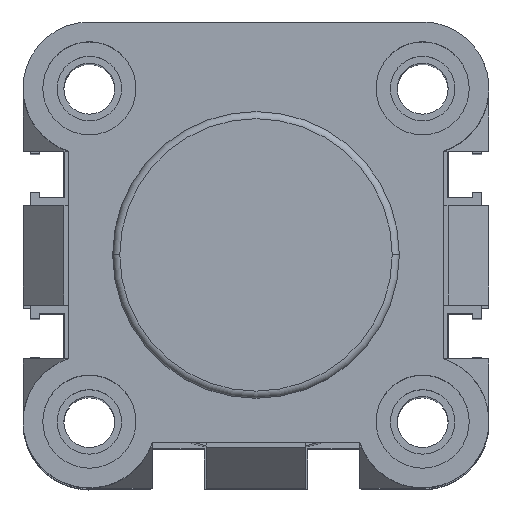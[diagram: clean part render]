
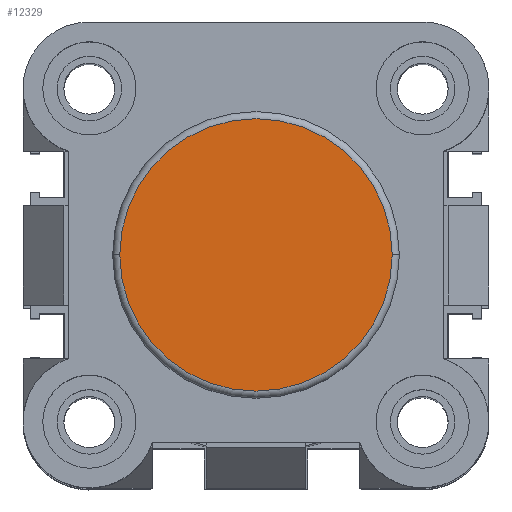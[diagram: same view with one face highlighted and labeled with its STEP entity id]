
A CAD part, top view. The second image highlights one B-rep face of the part: STEP entity #12329.
In plain terms, the highlighted planar face has unit normal (0, 0, 1).
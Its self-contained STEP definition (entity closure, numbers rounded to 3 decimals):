
#382 = DIRECTION ( 'NONE',  ( 0., 0., 1. ) ) ;
#431 = CIRCLE ( 'NONE', #3643, 19. ) ;
#621 = EDGE_CURVE ( 'NONE', #16691, #7317, #431, .T. ) ;
#1296 = DIRECTION ( 'NONE',  ( 0., 0., 1. ) ) ;
#1938 = EDGE_CURVE ( 'NONE', #7317, #16691, #5444, .T. ) ;
#2319 = ORIENTED_EDGE ( 'NONE', *, *, #621, .T. ) ;
#3643 = AXIS2_PLACEMENT_3D ( 'NONE', #12511, #1296, #23995 ) ;
#3946 = PLANE ( 'NONE',  #20148 ) ;
#5444 = CIRCLE ( 'NONE', #19586, 19. ) ;
#5539 = ORIENTED_EDGE ( 'NONE', *, *, #1938, .T. ) ;
#5625 = CARTESIAN_POINT ( 'NONE',  ( 13.5, 32.5, 34. ) ) ;
#7317 = VERTEX_POINT ( 'NONE', #24533 ) ;
#8037 = EDGE_LOOP ( 'NONE', ( #5539, #2319 ) ) ;
#9871 = CARTESIAN_POINT ( 'NONE',  ( 32.5, 32.5, 34. ) ) ;
#11280 = CARTESIAN_POINT ( 'NONE',  ( 32.5, 32.5, 34. ) ) ;
#12329 = ADVANCED_FACE ( 'NONE', ( #14322 ), #3946, .T. ) ;
#12511 = CARTESIAN_POINT ( 'NONE',  ( 32.5, 32.5, 34. ) ) ;
#14322 = FACE_OUTER_BOUND ( 'NONE', #8037, .T. ) ;
#16691 = VERTEX_POINT ( 'NONE', #5625 ) ;
#18912 = DIRECTION ( 'NONE',  ( 0., 0., 1. ) ) ;
#19586 = AXIS2_PLACEMENT_3D ( 'NONE', #9871, #382, #23243 ) ;
#20148 = AXIS2_PLACEMENT_3D ( 'NONE', #11280, #18912, #24657 ) ;
#23243 = DIRECTION ( 'NONE',  ( 1., 0., 0. ) ) ;
#23995 = DIRECTION ( 'NONE',  ( 1., 0., 0. ) ) ;
#24533 = CARTESIAN_POINT ( 'NONE',  ( 51.5, 32.5, 34. ) ) ;
#24657 = DIRECTION ( 'NONE',  ( 1., 0., 0. ) ) ;
